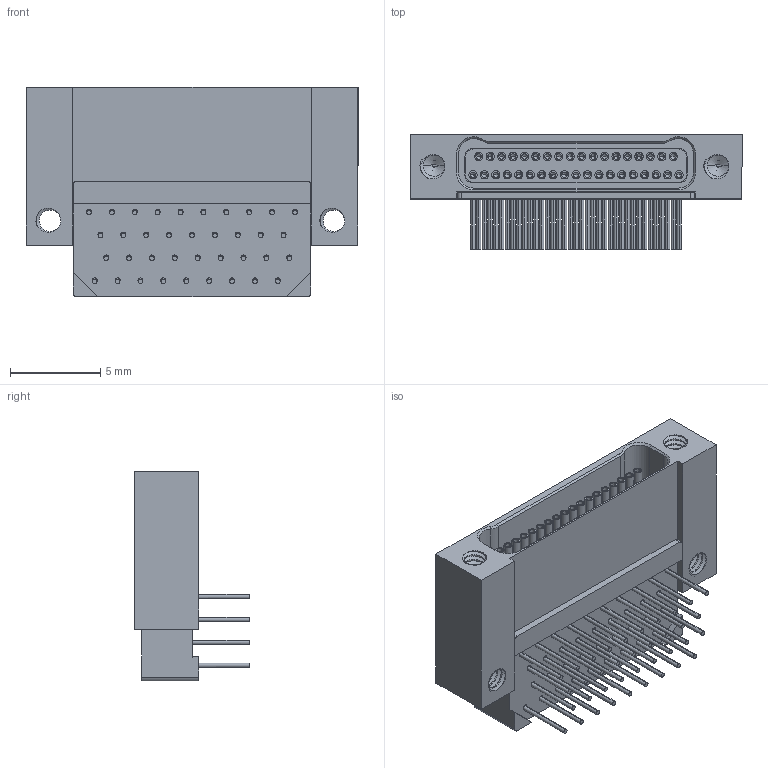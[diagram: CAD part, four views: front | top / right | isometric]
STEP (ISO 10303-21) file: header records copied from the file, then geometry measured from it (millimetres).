
FILE_DESCRIPTION (( 'STEP AP214' ), '1' );
FILE_NAME ('A29400-037 REV B.STEP', '2015-11-05T13:09:04', ( '' ), ( '' ), 'SwSTEP 2.0', 'SolidWorks 2015', '' );
FILE_SCHEMA (( 'AUTOMOTIVE_DESIGN' ));
Length unit declared in the file: inch
Products named in the file (1): A29400-037
Bounding box: 18.41 x 6.36 x 11.63 mm (x, y, z)
Volume: 515.3 mm3; surface area: 1243.3 mm2
Topology: 1 solids, 4 shells, 900 faces, 2398 edges, 1518 vertices
Faces by surface type: cylinder 400, plane 280, cone 158, bspline 62
Entity records: 39593 total; most frequent: CARTESIAN_POINT 16802, ORIENTED_EDGE 4644, DIRECTION 4419, EDGE_CURVE 2322, AXIS2_PLACEMENT_3D 1655, VERTEX_POINT 1518, LINE 1109, VECTOR 1109
